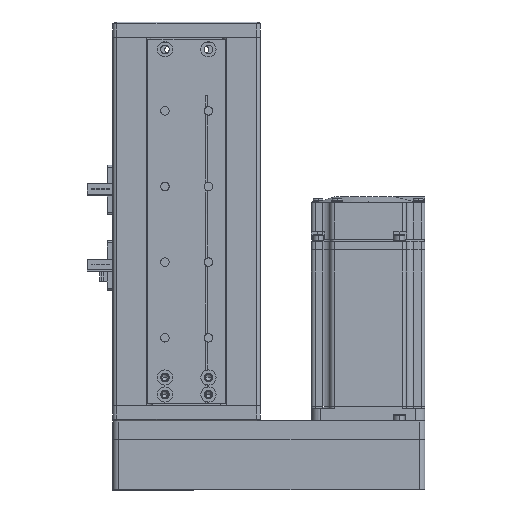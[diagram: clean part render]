
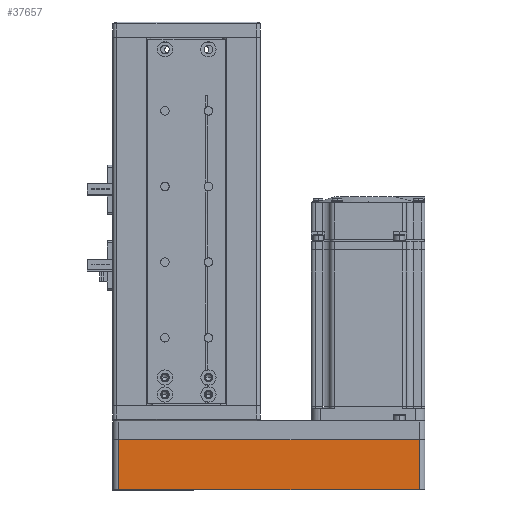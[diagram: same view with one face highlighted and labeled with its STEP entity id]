
A CAD part, front view. The second image highlights one B-rep face of the part: STEP entity #37657.
In plain terms, the highlighted planar face has unit normal (0, -1, 0) as drawn and (0, 1, 0) by its records, which use the part's own axes.
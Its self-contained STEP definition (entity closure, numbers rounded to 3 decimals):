
#1088 = DIRECTION ( 'NONE',  ( 0., 0., -1. ) ) ;
#1297 = LINE ( 'NONE', #40119, #9717 ) ;
#5134 = PLANE ( 'NONE',  #11800 ) ;
#5300 = DIRECTION ( 'NONE',  ( 0., 0., 1. ) ) ;
#8492 = ORIENTED_EDGE ( 'NONE', *, *, #17636, .F. ) ;
#9143 = VECTOR ( 'NONE', #5300, 1000. ) ;
#9717 = VECTOR ( 'NONE', #1088, 1000. ) ;
#10119 = CARTESIAN_POINT ( 'NONE',  ( -79.5, 30., 0. ) ) ;
#10579 = FACE_OUTER_BOUND ( 'NONE', #18222, .T. ) ;
#11800 = AXIS2_PLACEMENT_3D ( 'NONE', #16090, #44280, #23133 ) ;
#14986 = CARTESIAN_POINT ( 'NONE',  ( 79.5, 30., 26.5 ) ) ;
#16090 = CARTESIAN_POINT ( 'NONE',  ( 82.5, 30., 26.5 ) ) ;
#16099 = CARTESIAN_POINT ( 'NONE',  ( -79.5, 30., 26.5 ) ) ;
#17636 = EDGE_CURVE ( 'NONE', #28469, #36275, #29283, .T. ) ;
#17768 = EDGE_CURVE ( 'NONE', #28469, #20895, #1297, .T. ) ;
#17827 = EDGE_CURVE ( 'NONE', #20895, #45140, #19868, .T. ) ;
#17840 = EDGE_CURVE ( 'NONE', #45140, #36275, #18757, .T. ) ;
#18222 = EDGE_LOOP ( 'NONE', ( #8492, #38342, #43737, #32112 ) ) ;
#18757 = LINE ( 'NONE', #16099, #9143 ) ;
#19868 = LINE ( 'NONE', #33670, #38602 ) ;
#20895 = VERTEX_POINT ( 'NONE', #33692 ) ;
#20970 = VECTOR ( 'NONE', #42770, 1000. ) ;
#23133 = DIRECTION ( 'NONE',  ( 1., 0., 0. ) ) ;
#26379 = DIRECTION ( 'NONE',  ( -1., 0., 0. ) ) ;
#28469 = VERTEX_POINT ( 'NONE', #14986 ) ;
#29283 = LINE ( 'NONE', #39203, #20970 ) ;
#32112 = ORIENTED_EDGE ( 'NONE', *, *, #17840, .T. ) ;
#33670 = CARTESIAN_POINT ( 'NONE',  ( 82.5, 30., 0. ) ) ;
#33692 = CARTESIAN_POINT ( 'NONE',  ( 79.5, 30., 0. ) ) ;
#36275 = VERTEX_POINT ( 'NONE', #40961 ) ;
#37657 = ADVANCED_FACE ( 'NONE', ( #10579 ), #5134, .F. ) ;
#38342 = ORIENTED_EDGE ( 'NONE', *, *, #17768, .T. ) ;
#38602 = VECTOR ( 'NONE', #26379, 1000. ) ;
#39203 = CARTESIAN_POINT ( 'NONE',  ( 82.5, 30., 26.5 ) ) ;
#40119 = CARTESIAN_POINT ( 'NONE',  ( 79.5, 30., 26.5 ) ) ;
#40961 = CARTESIAN_POINT ( 'NONE',  ( -79.5, 30., 26.5 ) ) ;
#42770 = DIRECTION ( 'NONE',  ( -1., 0., 0. ) ) ;
#43737 = ORIENTED_EDGE ( 'NONE', *, *, #17827, .T. ) ;
#44280 = DIRECTION ( 'NONE',  ( 0., -1., 0. ) ) ;
#45140 = VERTEX_POINT ( 'NONE', #10119 ) ;
